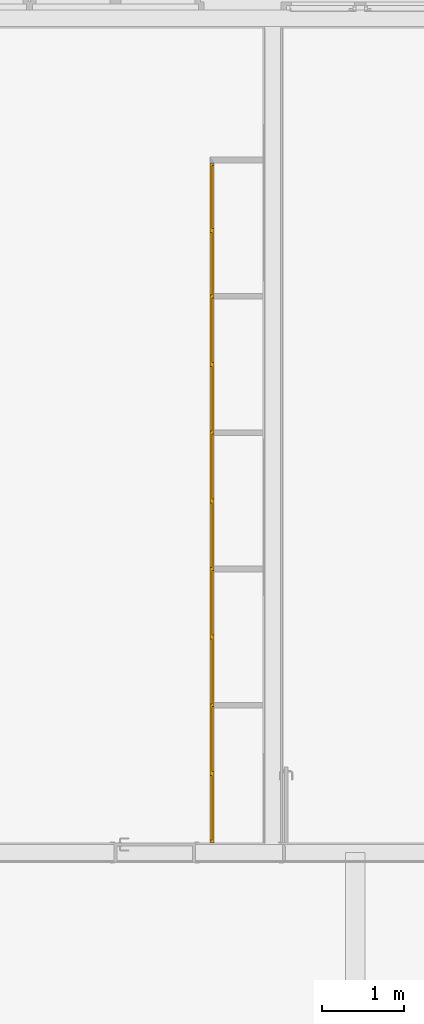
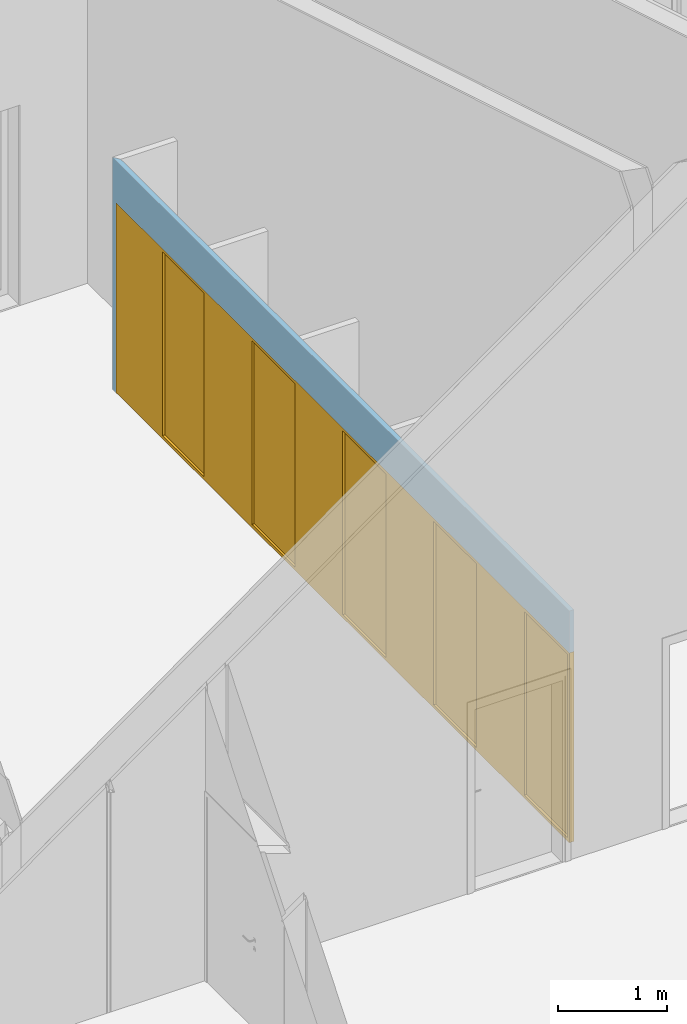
# One storey, part 13 of 34: 1 window, 1 opening, plus 1 element that does not belong to this part.
"""IFC2X3 building model written with IfcOpenShell, lengths in metres."""

from ifc_helpers import new_model, entity, si_unit, converted_unit, derived_unit, money_unit, direction, frame, origin_with_axes, origin_2d_with_axis, place, context, subcontext, project, spatial, polyline, rectangle, outline, extrude, faceted_brep, material, layer, layer_set, layer_usage, type_object, element, fill, save


model = new_model("IFC2X3")

# Units and contexts
model_context = context("Model", 3, precision=1e-05, world=origin_with_axes(), true_north=direction((0.0, 1.0)))
body_context = subcontext(model_context, "Body", "Model", "MODEL_VIEW")
ifc_project = project(units=[si_unit("LENGTHUNIT", "METRE"), si_unit("AREAUNIT", "SQUARE_METRE"), si_unit("VOLUMEUNIT", "CUBIC_METRE"), converted_unit("PLANEANGLEUNIT", "DEGREE", entity("IfcPlaneAngleMeasure", 0.0174532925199), si_unit("PLANEANGLEUNIT", "RADIAN"), dimensions=[0, 0, 0, 0, 0, 0, 0]), money_unit("CHF"), converted_unit("TIMEUNIT", "Year", entity("IfcTimeMeasure", 31556926.0), si_unit("TIMEUNIT", "SECOND"), dimensions=[0, 0, 1, 0, 0, 0, 0]), si_unit("MASSUNIT", "GRAM", prefix="KILO"), si_unit("THERMODYNAMICTEMPERATUREUNIT", "DEGREE_CELSIUS"), si_unit("LUMINOUSINTENSITYUNIT", "LUMEN"), si_unit("ENERGYUNIT", "JOULE", prefix="MEGA"), derived_unit("THERMALCONDUCTANCEUNIT", [(si_unit("POWERUNIT", "WATT"), 1), (si_unit("LENGTHUNIT", "METRE"), -1), (si_unit("THERMODYNAMICTEMPERATUREUNIT", "KELVIN"), -1)]), derived_unit("SPECIFICHEATCAPACITYUNIT", [(si_unit("ENERGYUNIT", "JOULE"), 1), (si_unit("MASSUNIT", "GRAM", prefix="KILO"), -1), (si_unit("THERMODYNAMICTEMPERATUREUNIT", "KELVIN"), -1)]), derived_unit("MASSDENSITYUNIT", [(si_unit("MASSUNIT", "GRAM", prefix="KILO"), 1), (si_unit("VOLUMEUNIT", "CUBIC_METRE"), -1)])], contexts=[model_context])

# Site, building, storey
site_placement = place(None, origin_with_axes())
site = spatial("IfcSite", under=ifc_project, at=site_placement, Name="Site", CompositionType="ELEMENT")
building_placement = place(site_placement, origin_with_axes())
building = spatial("IfcBuilding", under=site, at=building_placement, Name="Bâtiment", CompositionType="ELEMENT")
storey_placement = place(building_placement, origin_with_axes())
storey = spatial("IfcBuildingStorey", under=building, at=storey_placement, Name="Rez-de-chaussée", CompositionType="ELEMENT", Elevation=0.0)

# Wall, opening, window
ifc_material_1 = material(Name="Finition int - Plaque de plâtre")
ifc_layer_1 = layer(ifc_material_1, 0.013, ventilated="UNKNOWN")
ifc_material_2 = material(Name="Isolation - Laine de verre")
ifc_layer_2 = layer(ifc_material_2, 0.024, ventilated="UNKNOWN")
ifc_layer_3 = layer(ifc_material_1, 0.013, ventilated="UNKNOWN")
ifc_layer_set = layer_set([ifc_layer_1, ifc_layer_2, ifc_layer_3], Name="Cloison 50")
ifc_layer_usage = layer_usage(ifc_layer_set, "AXIS2", "POSITIVE", -0.05)
wall_type = type_object("IfcWallType", Name="Cloison 50 50", PredefinedType="NOTDEFINED")
wall_placement = place(storey_placement, frame((22.6194697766, 23.45, 0.0), z_axis=(0.0, 0.0, 1.0), x_axis=(0.0, -1.0, 0.0)))
wall = element("IfcWallStandardCase", 1, at=wall_placement, inside=storey, type_object=wall_type, material=ifc_layer_usage, Name="MUR_EXT-006", context=body_context, shape_type="SweptSolid", body=[
    extrude(outline(polyline([(-0.07, -0.05), (8.33, -0.05), (8.33, 0.0), (0.0, 0.0), (-0.07, -0.05)])), origin_with_axes(), (0.0, 0.0, 1.0), 2.6),
])
opening_placement = place(wall_placement, frame((4.165, 0.0, 0.0), z_axis=(0.0, 0.0, 1.0), x_axis=(1.0, 0.0, 0.0)))
opening = element("IfcOpeningElement", 2, at=opening_placement, cuts=wall, Name="Portes placard couliisantes 5x2panneaux", context=body_context, shape_type="SweptSolid", body=[
    extrude(rectangle(XDim=8.33, YDim=2.13, at=origin_2d_with_axis()), frame((0.0, 0.05, 1.065), z_axis=(0.0, -1.0, 0.0), x_axis=(1.0, 0.0, 0.0)), (0.0, 0.0, 1.0), 0.15),
])
window_style = type_object("IfcWindowStyle", Name="Fenêtre horizontale à châssis multiples 26", ConstructionType="NOTDEFINED", OperationType="USERDEFINED", ParameterTakesPrecedence=False, Sizeable=False)
window_placement = place(opening_placement, frame((-4.165, 0.0, 0.0), z_axis=(0.0, 0.0, 1.0), x_axis=(1.0, 0.0, 0.0)))
window = element("IfcWindow", 3, at=window_placement, inside=storey, type_object=window_style, Name="Portes placard couliisantes 5x2panneaux", ObjectType="WINDOW", OverallHeight=2.13, OverallWidth=8.33, context=body_context, shape_type="Brep", body=[
    faceted_brep([(0.035, -0.05, 2.095), (0.035, 0.0, 2.095), (0.0, 0.0, 2.095), (0.0, -0.05, 2.095), (0.035, -0.05, 0.035), (0.035, 0.0, 0.035), (0.0, 0.0, 0.035), (0.0, -0.05, 0.035)], [[[0, 1, 2, 3]], [[4, 5, 1, 0]], [[1, 5, 6, 2]], [[3, 2, 6, 7]], [[0, 3, 7, 4]], [[7, 6, 5, 4]]]),
    faceted_brep([(8.295, -0.05, 0.035), (8.295, 0.0, 0.035), (8.33, 0.0, 0.035), (8.33, -0.05, 0.035), (8.295, -0.05, 2.095), (8.295, 0.0, 2.095), (8.33, 0.0, 2.095), (8.33, -0.05, 2.095)], [[[0, 1, 2, 3]], [[4, 5, 1, 0]], [[1, 5, 6, 2]], [[3, 2, 6, 7]], [[0, 3, 7, 4]], [[7, 6, 5, 4]]]),
    faceted_brep([(8.295, -0.05, 2.095), (8.295, 0.0, 2.095), (8.33, 0.0, 2.095), (8.33, -0.05, 2.095), (6.6625, -0.05, 2.095), (6.6625, 0.0, 2.095), (6.6275, 0.0, 2.095), (4.9925, 0.0, 2.095), (4.9575, 0.0, 2.095), (3.3225, 0.0, 2.095), (3.2875, 0.0, 2.095), (1.6525, 0.0, 2.095), (1.6175, 0.0, 2.095), (0.035, 0.0, 2.095), (0.0, 0.0, 2.095), (0.0, 0.0, 2.13), (8.33, 0.0, 2.13), (8.33, -0.05, 2.13), (0.0, -0.05, 2.13), (0.0, -0.05, 2.095), (0.035, -0.05, 2.095), (1.6175, -0.05, 2.095), (1.6525, -0.05, 2.095), (3.2875, -0.05, 2.095), (3.3225, -0.05, 2.095), (4.9575, -0.05, 2.095), (4.9925, -0.05, 2.095), (6.6275, -0.05, 2.095)], [[[0, 1, 2, 3]], [[4, 5, 1, 0]], [[1, 5, 6, 7, 8, 9, 10, 11, 12, 13, 14, 15, 16, 2]], [[3, 2, 16, 17]], [[0, 3, 17, 18, 19, 20, 21, 22, 23, 24, 25, 26, 27, 4]], [[27, 6, 5, 4]], [[26, 7, 6, 27]], [[25, 8, 7, 26]], [[24, 9, 8, 25]], [[23, 10, 9, 24]], [[22, 11, 10, 23]], [[21, 12, 11, 22]], [[20, 13, 12, 21]], [[19, 14, 13, 20]], [[18, 15, 14, 19]], [[17, 16, 15, 18]]]),
    faceted_brep([(6.6625, -0.05, 0.035), (6.6625, 0.0, 0.035), (6.6275, 0.0, 0.035), (6.6275, -0.05, 0.035), (8.295, -0.05, 0.035), (8.295, 0.0, 0.035), (8.33, 0.0, 0.035), (8.33, 0.0, 0.0), (0.0, 0.0, 0.0), (0.0, 0.0, 0.035), (0.035, 0.0, 0.035), (1.6175, 0.0, 0.035), (1.6525, 0.0, 0.035), (3.2875, 0.0, 0.035), (3.3225, 0.0, 0.035), (4.9575, 0.0, 0.035), (4.9925, 0.0, 0.035), (4.9925, -0.05, 0.035), (4.9575, -0.05, 0.035), (3.3225, -0.05, 0.035), (3.2875, -0.05, 0.035), (1.6525, -0.05, 0.035), (1.6175, -0.05, 0.035), (0.035, -0.05, 0.035), (0.0, -0.05, 0.035), (0.0, -0.05, 0.0), (8.33, -0.05, 0.0), (8.33, -0.05, 0.035)], [[[0, 1, 2, 3]], [[4, 5, 1, 0]], [[1, 5, 6, 7, 8, 9, 10, 11, 12, 13, 14, 15, 16, 2]], [[3, 2, 16, 17]], [[0, 3, 17, 18, 19, 20, 21, 22, 23, 24, 25, 26, 27, 4]], [[27, 6, 5, 4]], [[26, 7, 6, 27]], [[25, 8, 7, 26]], [[24, 9, 8, 25]], [[23, 10, 9, 24]], [[22, 11, 10, 23]], [[21, 12, 11, 22]], [[20, 13, 12, 21]], [[19, 14, 13, 20]], [[18, 15, 14, 19]], [[17, 16, 15, 18]]]),
    faceted_brep([(1.6525, -0.05, 0.035), (1.6525, 0.0, 0.035), (1.6525, 0.0, 2.095), (1.6525, -0.05, 2.095), (1.6175, -0.05, 0.035), (1.6175, 0.0, 0.035), (1.6175, 0.0, 2.095), (1.6175, -0.05, 2.095)], [[[0, 1, 2, 3]], [[4, 5, 1, 0]], [[1, 5, 6, 2]], [[3, 2, 6, 7]], [[0, 3, 7, 4]], [[7, 6, 5, 4]]]),
    faceted_brep([(3.3225, -0.05, 0.035), (3.3225, 0.0, 0.035), (3.3225, 0.0, 2.095), (3.3225, -0.05, 2.095), (3.2875, -0.05, 0.035), (3.2875, 0.0, 0.035), (3.2875, 0.0, 2.095), (3.2875, -0.05, 2.095)], [[[0, 1, 2, 3]], [[4, 5, 1, 0]], [[1, 5, 6, 2]], [[3, 2, 6, 7]], [[0, 3, 7, 4]], [[7, 6, 5, 4]]]),
    faceted_brep([(4.9925, -0.05, 0.035), (4.9925, 0.0, 0.035), (4.9925, 0.0, 2.095), (4.9925, -0.05, 2.095), (4.9575, -0.05, 0.035), (4.9575, 0.0, 0.035), (4.9575, 0.0, 2.095), (4.9575, -0.05, 2.095)], [[[0, 1, 2, 3]], [[4, 5, 1, 0]], [[1, 5, 6, 2]], [[3, 2, 6, 7]], [[0, 3, 7, 4]], [[7, 6, 5, 4]]]),
    faceted_brep([(6.6625, -0.05, 0.035), (6.6625, 0.0, 0.035), (6.6625, 0.0, 2.095), (6.6625, -0.05, 2.095), (6.6275, -0.05, 0.035), (6.6275, 0.0, 0.035), (6.6275, 0.0, 2.095), (6.6275, -0.05, 2.095)], [[[0, 1, 2, 3]], [[4, 5, 1, 0]], [[1, 5, 6, 2]], [[3, 2, 6, 7]], [[0, 3, 7, 4]], [[7, 6, 5, 4]]]),
    faceted_brep([(0.80125, -0.025, 0.035), (0.80125, 0.0, 0.035), (1.6175, 0.0, 0.035), (1.6175, -0.025, 0.035), (0.80125, -0.025, 2.095), (0.80125, 0.0, 2.095), (1.6175, 0.0, 2.095), (1.6175, -0.025, 2.095)], [[[0, 1, 2, 3]], [[4, 5, 1, 0]], [[1, 5, 6, 2]], [[3, 2, 6, 7]], [[0, 3, 7, 4]], [[7, 6, 5, 4]]]),
    faceted_brep([(0.035, -0.05, 0.035), (0.035, -0.025, 0.035), (0.85125, -0.025, 0.035), (0.85125, -0.05, 0.035), (0.035, -0.05, 2.095), (0.035, -0.025, 2.095), (0.85125, -0.025, 2.095), (0.85125, -0.05, 2.095)], [[[0, 1, 2, 3]], [[4, 5, 1, 0]], [[1, 5, 6, 2]], [[3, 2, 6, 7]], [[0, 3, 7, 4]], [[7, 6, 5, 4]]]),
    faceted_brep([(2.445, -0.025, 0.035), (2.445, 0.0, 0.035), (3.2875, 0.0, 0.035), (3.2875, -0.025, 0.035), (2.445, -0.025, 2.095), (2.445, 0.0, 2.095), (3.2875, 0.0, 2.095), (3.2875, -0.025, 2.095)], [[[0, 1, 2, 3]], [[4, 5, 1, 0]], [[1, 5, 6, 2]], [[3, 2, 6, 7]], [[0, 3, 7, 4]], [[7, 6, 5, 4]]]),
    faceted_brep([(1.6525, -0.05, 0.035), (1.6525, -0.025, 0.035), (2.495, -0.025, 0.035), (2.495, -0.05, 0.035), (1.6525, -0.05, 2.095), (1.6525, -0.025, 2.095), (2.495, -0.025, 2.095), (2.495, -0.05, 2.095)], [[[0, 1, 2, 3]], [[4, 5, 1, 0]], [[1, 5, 6, 2]], [[3, 2, 6, 7]], [[0, 3, 7, 4]], [[7, 6, 5, 4]]]),
    faceted_brep([(4.115, -0.025, 0.035), (4.115, 0.0, 0.035), (4.9575, 0.0, 0.035), (4.9575, -0.025, 0.035), (4.115, -0.025, 2.095), (4.115, 0.0, 2.095), (4.9575, 0.0, 2.095), (4.9575, -0.025, 2.095)], [[[0, 1, 2, 3]], [[4, 5, 1, 0]], [[1, 5, 6, 2]], [[3, 2, 6, 7]], [[0, 3, 7, 4]], [[7, 6, 5, 4]]]),
    faceted_brep([(3.3225, -0.05, 0.035), (3.3225, -0.025, 0.035), (4.165, -0.025, 0.035), (4.165, -0.05, 0.035), (3.3225, -0.05, 2.095), (3.3225, -0.025, 2.095), (4.165, -0.025, 2.095), (4.165, -0.05, 2.095)], [[[0, 1, 2, 3]], [[4, 5, 1, 0]], [[1, 5, 6, 2]], [[3, 2, 6, 7]], [[0, 3, 7, 4]], [[7, 6, 5, 4]]]),
    faceted_brep([(5.785, -0.025, 0.035), (5.785, 0.0, 0.035), (6.6275, 0.0, 0.035), (6.6275, -0.025, 0.035), (5.785, -0.025, 2.095), (5.785, 0.0, 2.095), (6.6275, 0.0, 2.095), (6.6275, -0.025, 2.095)], [[[0, 1, 2, 3]], [[4, 5, 1, 0]], [[1, 5, 6, 2]], [[3, 2, 6, 7]], [[0, 3, 7, 4]], [[7, 6, 5, 4]]]),
    faceted_brep([(4.9925, -0.05, 0.035), (4.9925, -0.025, 0.035), (5.835, -0.025, 0.035), (5.835, -0.05, 0.035), (4.9925, -0.05, 2.095), (4.9925, -0.025, 2.095), (5.835, -0.025, 2.095), (5.835, -0.05, 2.095)], [[[0, 1, 2, 3]], [[4, 5, 1, 0]], [[1, 5, 6, 2]], [[3, 2, 6, 7]], [[0, 3, 7, 4]], [[7, 6, 5, 4]]]),
    faceted_brep([(7.45375, -0.025, 0.035), (7.45375, 0.0, 0.035), (8.295, 0.0, 0.035), (8.295, -0.025, 0.035), (7.45375, -0.025, 2.095), (7.45375, 0.0, 2.095), (8.295, 0.0, 2.095), (8.295, -0.025, 2.095)], [[[0, 1, 2, 3]], [[4, 5, 1, 0]], [[1, 5, 6, 2]], [[3, 2, 6, 7]], [[0, 3, 7, 4]], [[7, 6, 5, 4]]]),
    faceted_brep([(6.6625, -0.05, 0.035), (6.6625, -0.025, 0.035), (7.50375, -0.025, 0.035), (7.50375, -0.05, 0.035), (6.6625, -0.05, 2.095), (6.6625, -0.025, 2.095), (7.50375, -0.025, 2.095), (7.50375, -0.05, 2.095)], [[[0, 1, 2, 3]], [[4, 5, 1, 0]], [[1, 5, 6, 2]], [[3, 2, 6, 7]], [[0, 3, 7, 4]], [[7, 6, 5, 4]]]),
])
fill(opening, window)

save(model, "model.ifc")
